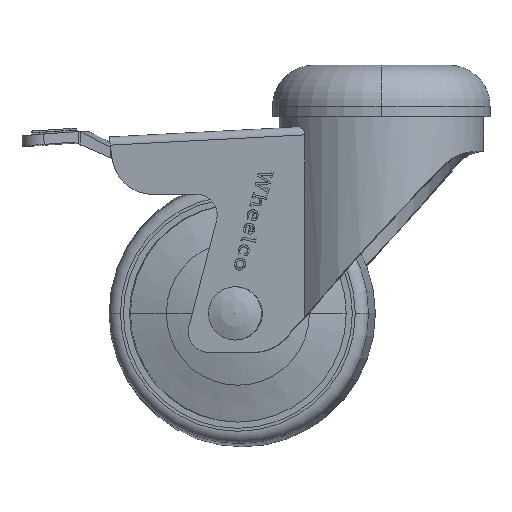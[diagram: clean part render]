
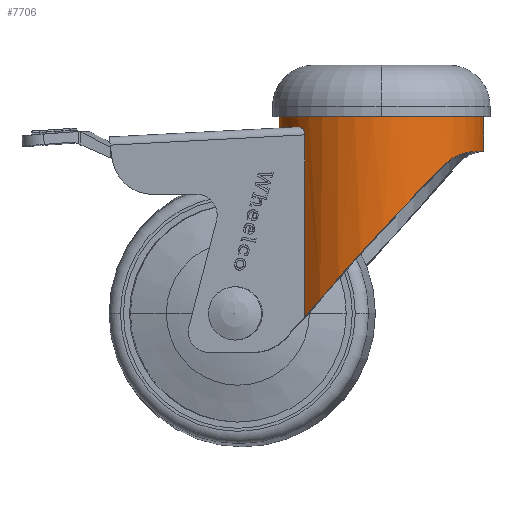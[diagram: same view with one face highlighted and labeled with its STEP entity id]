
A CAD part, top view. The second image highlights one B-rep face of the part: STEP entity #7706.
In plain terms, the highlighted cylindrical face has radius 25 mm (diameter 50 mm), a partial arc.
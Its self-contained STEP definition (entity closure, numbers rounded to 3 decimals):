
#70 = B_SPLINE_CURVE_WITH_KNOTS ( 'NONE', 3,
 ( #6118, #14944, #8663, #16095, #13626, #3417, #11147, #16173, #8434, #4883, #9901, #3652 ),
 .UNSPECIFIED., .F., .F.,
 ( 4, 2, 2, 2, 2, 4 ),
 ( 0., 0.001, 0.002, 0.003, 0.003, 0.004 ),
 .UNSPECIFIED. ) ;
#118 = DIRECTION ( 'NONE',  ( 0., -1., 0. ) ) ;
#248 = CARTESIAN_POINT ( 'NONE',  ( -27.741, 20.254, -6.885 ) ) ;
#298 = VERTEX_POINT ( 'NONE', #12705 ) ;
#437 = VECTOR ( 'NONE', #14984, 1000. ) ;
#488 = EDGE_CURVE ( 'NONE', #9091, #12296, #12629, .T. ) ;
#612 = CARTESIAN_POINT ( 'NONE',  ( -9.827, 6.094, -22.997 ) ) ;
#690 = CARTESIAN_POINT ( 'NONE',  ( -15.338, 7.128, -19.751 ) ) ;
#774 = DIRECTION ( 'NONE',  ( 0., 1., 0. ) ) ;
#1060 = ORIENTED_EDGE ( 'NONE', *, *, #15840, .F. ) ;
#1123 = ORIENTED_EDGE ( 'NONE', *, *, #1553, .F. ) ;
#1185 = DIRECTION ( 'NONE',  ( 0., 0., -1. ) ) ;
#1228 = EDGE_CURVE ( 'NONE', #12926, #298, #70, .T. ) ;
#1389 = EDGE_CURVE ( 'NONE', #5283, #7614, #10657, .T. ) ;
#1553 = EDGE_CURVE ( 'NONE', #10611, #298, #8007, .T. ) ;
#1605 = DIRECTION ( 'NONE',  ( 0., -1., 0. ) ) ;
#1983 = DIRECTION ( 'NONE',  ( 0., -1., 0. ) ) ;
#2656 = CARTESIAN_POINT ( 'NONE',  ( -18.303, 9.229, -17.029 ) ) ;
#2865 = CARTESIAN_POINT ( 'NONE',  ( -5.499, 6., -24.388 ) ) ;
#2991 = CARTESIAN_POINT ( 'NONE',  ( -12.163, 6.321, -21.851 ) ) ;
#3151 = CARTESIAN_POINT ( 'NONE',  ( -14.838, 6.943, -20.13 ) ) ;
#3319 = VECTOR ( 'NONE', #10942, 1000. ) ;
#3347 = ORIENTED_EDGE ( 'NONE', *, *, #12674, .T. ) ;
#3377 = LINE ( 'NONE', #7223, #3319 ) ;
#3417 = CARTESIAN_POINT ( 'NONE',  ( -17.75, 0.682, 17.607 ) ) ;
#3652 = CARTESIAN_POINT ( 'NONE',  ( -18.25, 2.003, 17.086 ) ) ;
#4227 = CARTESIAN_POINT ( 'NONE',  ( -18.25, 55., 17.086 ) ) ;
#4249 = CARTESIAN_POINT ( 'NONE',  ( 0., 0.413, 25. ) ) ;
#4883 = CARTESIAN_POINT ( 'NONE',  ( -18.232, 1.694, 17.106 ) ) ;
#5283 = VERTEX_POINT ( 'NONE', #13193 ) ;
#5437 = FACE_OUTER_BOUND ( 'NONE', #5745, .T. ) ;
#5600 = CYLINDRICAL_SURFACE ( 'NONE', #6987, 25. ) ;
#5745 = EDGE_LOOP ( 'NONE', ( #10170, #3347, #7119, #1123, #8280, #12126, #1060, #14552, #14354 ) ) ;
#5935 = VECTOR ( 'NONE', #1605, 1000. ) ;
#6118 = CARTESIAN_POINT ( 'NONE',  ( -16.25, 0.1, 18.998 ) ) ;
#6239 = CARTESIAN_POINT ( 'NONE',  ( -18.303, 9.229, -17.029 ) ) ;
#6450 = VERTEX_POINT ( 'NONE', #15684 ) ;
#6653 = CARTESIAN_POINT ( 'NONE',  ( -27.72, 35.313, 6.971 ) ) ;
#6769 = CARTESIAN_POINT ( 'NONE',  ( -8.017, 6.011, -23.715 ) ) ;
#6987 = AXIS2_PLACEMENT_3D ( 'NONE', #7987, #1983, #15595 ) ;
#7031 = EDGE_CURVE ( 'NONE', #14084, #5283, #3377, .T. ) ;
#7119 = ORIENTED_EDGE ( 'NONE', *, *, #1228, .T. ) ;
#7146 = EDGE_CURVE ( 'NONE', #6450, #7614, #7456, .T. ) ;
#7223 = CARTESIAN_POINT ( 'NONE',  ( 0., 55., 25. ) ) ;
#7456 = LINE ( 'NONE', #12413, #437 ) ;
#7614 = VERTEX_POINT ( 'NONE', #12765 ) ;
#7706 = ADVANCED_FACE ( 'NONE', ( #5437 ), #5600, .T. ) ;
#7939 = CARTESIAN_POINT ( 'NONE',  ( 0., 0.413, 25. ) ) ;
#7987 = CARTESIAN_POINT ( 'NONE',  ( 0., 55., 0. ) ) ;
#8004 = CARTESIAN_POINT ( 'NONE',  ( -10.421, 6.133, -22.734 ) ) ;
#8007 = LINE ( 'NONE', #4227, #5935 ) ;
#8252 = CARTESIAN_POINT ( 'NONE',  ( -13.269, 6.516, -21.198 ) ) ;
#8280 = ORIENTED_EDGE ( 'NONE', *, *, #16272, .F. ) ;
#8434 = CARTESIAN_POINT ( 'NONE',  ( -18.161, 1.398, 17.18 ) ) ;
#8663 = CARTESIAN_POINT ( 'NONE',  ( -16.716, 0.119, 18.592 ) ) ;
#8812 = CARTESIAN_POINT ( 'NONE',  ( -18.25, 46.306, 17.086 ) ) ;
#9025 = CARTESIAN_POINT ( 'NONE',  ( -18.303, 9.229, -17.029 ) ) ;
#9091 = VERTEX_POINT ( 'NONE', #9025 ) ;
#9244 = CARTESIAN_POINT ( 'NONE',  ( -16.739, 7.846, -18.578 ) ) ;
#9348 = CARTESIAN_POINT ( 'NONE',  ( -16.25, 0.1, 18.998 ) ) ;
#9901 = CARTESIAN_POINT ( 'NONE',  ( -18.25, 1.846, 17.086 ) ) ;
#10170 = ORIENTED_EDGE ( 'NONE', *, *, #7031, .F. ) ;
#10611 = VERTEX_POINT ( 'NONE', #8812 ) ;
#10638 = CARTESIAN_POINT ( 'NONE',  ( -16.293, 7.582, -18.972 ) ) ;
#10657 = CIRCLE ( 'NONE', #12494, 25. ) ;
#10806 = DIRECTION ( 'NONE',  ( 0., 0., 1. ) ) ;
#10842 = AXIS2_PLACEMENT_3D ( 'NONE', #12044, #774, #10806 ) ;
#10906 = CARTESIAN_POINT ( 'NONE',  ( -16.25, 0.1, 18.998 ) ) ;
#10942 = DIRECTION ( 'NONE',  ( 0., -1., 0. ) ) ;
#11147 = CARTESIAN_POINT ( 'NONE',  ( -17.922, 0.884, 17.431 ) ) ;
#11658 = CARTESIAN_POINT ( 'NONE',  ( -6.023, 0.413, 25. ) ) ;
#11792 = CARTESIAN_POINT ( 'NONE',  ( -5.499, 6., -24.388 ) ) ;
#11817 = CARTESIAN_POINT ( 'NONE',  ( -11.673, 0.304, 22.913 ) ) ;
#11875 = CARTESIAN_POINT ( 'NONE',  ( -11.591, 6.247, -22.16 ) ) ;
#12044 = CARTESIAN_POINT ( 'NONE',  ( 0., 6., 0. ) ) ;
#12126 = ORIENTED_EDGE ( 'NONE', *, *, #488, .T. ) ;
#12296 = VERTEX_POINT ( 'NONE', #2865 ) ;
#12358 =( BOUNDED_CURVE ( )  B_SPLINE_CURVE ( 3, ( #6239, #248, #6653, #14250 ),
 .UNSPECIFIED., .F., .T. ) 
 B_SPLINE_CURVE_WITH_KNOTS ( ( 4, 4 ),
 ( 0.821, 2.323 ),
 .UNSPECIFIED. ) 
 CURVE ( )  GEOMETRIC_REPRESENTATION_ITEM ( )  RATIONAL_B_SPLINE_CURVE ( ( 1., 0.821, 0.821, 1. ) ) 
 REPRESENTATION_ITEM ( '' )  );
#12413 = CARTESIAN_POINT ( 'NONE',  ( 0., 55., -25. ) ) ;
#12494 = AXIS2_PLACEMENT_3D ( 'NONE', #15028, #118, #1185 ) ;
#12629 = B_SPLINE_CURVE_WITH_KNOTS ( 'NONE', 3,
 ( #2656, #12707, #13281, #9244, #10638, #690, #3151, #14287, #8252, #2991, #11875, #8004, #612, #6769, #14359, #11792 ),
 .UNSPECIFIED., .F., .F.,
 ( 4, 2, 2, 2, 2, 2, 2, 4 ),
 ( 0., 0.002, 0.004, 0.006, 0.008, 0.01, 0.012, 0.016 ),
 .UNSPECIFIED. ) ;
#12674 = EDGE_CURVE ( 'NONE', #14084, #12926, #13808, .T. ) ;
#12705 = CARTESIAN_POINT ( 'NONE',  ( -18.25, 2.003, 17.086 ) ) ;
#12707 = CARTESIAN_POINT ( 'NONE',  ( -17.952, 8.818, -17.407 ) ) ;
#12765 = CARTESIAN_POINT ( 'NONE',  ( 0., -2.5, -25. ) ) ;
#12926 = VERTEX_POINT ( 'NONE', #10906 ) ;
#13193 = CARTESIAN_POINT ( 'NONE',  ( 0., -2.5, 25. ) ) ;
#13214 = CIRCLE ( 'NONE', #10842, 25. ) ;
#13281 = CARTESIAN_POINT ( 'NONE',  ( -17.568, 8.464, -17.796 ) ) ;
#13626 = CARTESIAN_POINT ( 'NONE',  ( -17.369, 0.371, 17.983 ) ) ;
#13808 =( BOUNDED_CURVE ( )  B_SPLINE_CURVE ( 3, ( #4249, #11658, #11817, #9348 ),
 .UNSPECIFIED., .F., .F. ) 
 B_SPLINE_CURVE_WITH_KNOTS ( ( 4, 4 ),
 ( 3.142, 3.849 ),
 .UNSPECIFIED. ) 
 CURVE ( )  GEOMETRIC_REPRESENTATION_ITEM ( )  RATIONAL_B_SPLINE_CURVE ( ( 1., 0.959, 0.959, 1. ) ) 
 REPRESENTATION_ITEM ( '' )  );
#14084 = VERTEX_POINT ( 'NONE', #7939 ) ;
#14250 = CARTESIAN_POINT ( 'NONE',  ( -18.25, 46.306, 17.086 ) ) ;
#14287 = CARTESIAN_POINT ( 'NONE',  ( -13.804, 6.637, -20.853 ) ) ;
#14354 = ORIENTED_EDGE ( 'NONE', *, *, #1389, .F. ) ;
#14359 = CARTESIAN_POINT ( 'NONE',  ( -6.776, 6., -24.1 ) ) ;
#14552 = ORIENTED_EDGE ( 'NONE', *, *, #7146, .T. ) ;
#14944 = CARTESIAN_POINT ( 'NONE',  ( -16.486, 0.089, 18.796 ) ) ;
#14984 = DIRECTION ( 'NONE',  ( 0., -1., 0. ) ) ;
#15028 = CARTESIAN_POINT ( 'NONE',  ( 0., -2.5, 0. ) ) ;
#15595 = DIRECTION ( 'NONE',  ( 0., 0., -1. ) ) ;
#15684 = CARTESIAN_POINT ( 'NONE',  ( 0., 6., -25. ) ) ;
#15840 = EDGE_CURVE ( 'NONE', #6450, #12296, #13214, .T. ) ;
#16095 = CARTESIAN_POINT ( 'NONE',  ( -17.16, 0.261, 18.183 ) ) ;
#16173 = CARTESIAN_POINT ( 'NONE',  ( -18.111, 1.262, 17.234 ) ) ;
#16272 = EDGE_CURVE ( 'NONE', #9091, #10611, #12358, .T. ) ;
